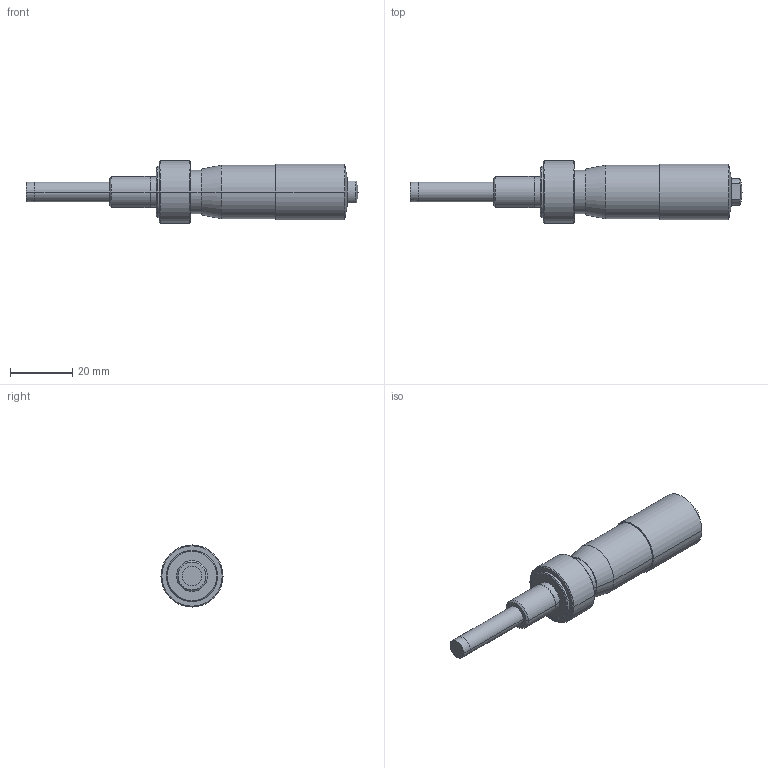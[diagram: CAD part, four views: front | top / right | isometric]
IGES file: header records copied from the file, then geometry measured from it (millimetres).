
Start section: Elysium IGES Interface
Global section: file name: 134HL:\商品設計部\部内\R_drv\99_受け渡しBOX\大竹\⇒賀藤さん\マイクロメータヘッド　CADデータ提供依頼\★3D_IGS完了\150-211-10_MHN1-25LTA.igs; native system: Creo Elements/Direct Modeling 18.1H  24-Oct-2015; preprocessor: Creo Element/Direct IGES_3D V2.2; author: Unknown; organization: Unknown; date: 20220927.094642; units: millimetre
Bounding box: 107 x 20 x 20 mm (x, y, z)
Volume: 17251.8 mm3; surface area: 5187.1 mm2
Topology: 1 solids, 1 shells, 45 faces, 94 edges, 57 vertices
Faces by surface type: bspline 45
